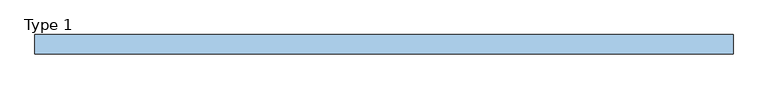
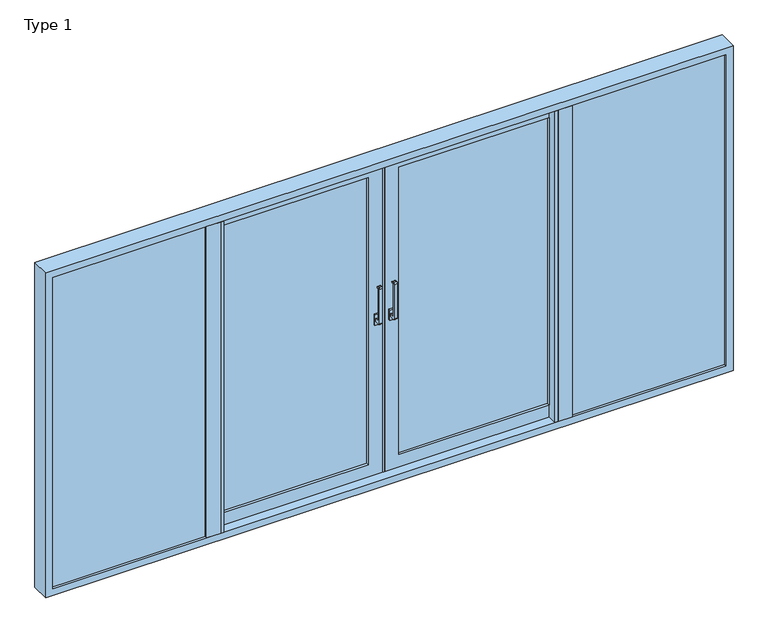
"""IFC4 building model written with IfcOpenShell, lengths in millimetres: window geometry, ETEM_E50_Quadruple_Lift_Sliding_HT : Type 1."""

from ifc_helpers import new_model, si_unit, point, frame, frame_2d, origin, place, context, project, spatial, polyline, circle_curve, trimmed, segment, composite_curve, outline, extrude, faceted_brep, source, transform, mapped, element, save


def type_1_0b5c1950(model_context):
    return source(origin(), model_context, "Body", "SolidModel", [
        extrude(outline(composite_curve([segment(polyline([(36.4, 1090.0), (4.8263152, 1090.0)]), True, "CONTINUOUS"), segment(trimmed(circle_curve(frame_2d((4.8263152, 1098.4263152)), 8.4263152), [point((4.8263152, 1090.0))], [point((-3.6, 1098.4263152))], False, "CARTESIAN"), True, "CONTINUOUS"), segment(polyline([(-3.6, 1098.4263152), (-3.6, 1331.5736848)]), True, "CONTINUOUS"), segment(trimmed(circle_curve(frame_2d((4.8263152, 1331.5736848)), 8.4263152), [point((-3.6, 1331.5736848))], [point((4.8263152, 1340.0))], False, "CARTESIAN"), True, "CONTINUOUS"), segment(polyline([(4.8263152, 1340.0), (16.4, 1340.0)]), True, "CONTINUOUS"), segment(trimmed(circle_curve(frame_2d((16.4, 1335.0)), 5.0), [point((16.4, 1340.0))], [point((16.4, 1330.0))], False, "CARTESIAN"), True, "CONTINUOUS"), segment(polyline([(16.4, 1330.0), (9.9355339, 1330.0)]), True, "CONTINUOUS"), segment(trimmed(circle_curve(frame_2d((9.9355339, 1326.4644661)), 3.5355339), [point((9.9355339, 1330.0))], [point((6.4, 1326.4644661))], True, "CARTESIAN"), True, "CONTINUOUS"), segment(polyline([(6.4, 1326.4644661), (6.4, 1113.5355339)]), True, "CONTINUOUS"), segment(trimmed(circle_curve(frame_2d((9.9355339, 1113.5355339)), 3.5355339), [point((6.4, 1113.5355339))], [point((9.9355339, 1110.0))], True, "CARTESIAN"), True, "CONTINUOUS"), segment(polyline([(9.9355339, 1110.0), (36.4, 1110.0), (36.4, 1090.0)]), True, "CONTINUOUS")], self_intersect=False)), frame((-57.5, 0.0, 0.0), z_axis=(1.0, 0.0, 0.0), x_axis=(0.0, 1.0, 0.0)), (0.0, 0.0, 1.0), 20.0),
        extrude(outline(polyline([(-62.5, 36.4), (-62.5, 49.4), (-32.5, 49.4), (-32.5, 36.4), (-62.5, 36.4)])), frame((0.0, 0.0, 1065.0), z_axis=(0.0, 0.0, 1.0), x_axis=(1.0, 0.0, 0.0)), (0.0, 0.0, 1.0), 70.0),
        extrude(outline(composite_curve([segment(polyline([(36.4, 1090.0), (4.8263152, 1090.0)]), True, "CONTINUOUS"), segment(trimmed(circle_curve(frame_2d((4.8263152, 1098.4263152)), 8.4263152), [point((4.8263152, 1090.0))], [point((-3.6, 1098.4263152))], False, "CARTESIAN"), True, "CONTINUOUS"), segment(polyline([(-3.6, 1098.4263152), (-3.6, 1331.5736848)]), True, "CONTINUOUS"), segment(trimmed(circle_curve(frame_2d((4.8263152, 1331.5736848)), 8.4263152), [point((-3.6, 1331.5736848))], [point((4.8263152, 1340.0))], False, "CARTESIAN"), True, "CONTINUOUS"), segment(polyline([(4.8263152, 1340.0), (16.4, 1340.0)]), True, "CONTINUOUS"), segment(trimmed(circle_curve(frame_2d((16.4, 1335.0)), 5.0), [point((16.4, 1340.0))], [point((16.4, 1330.0))], False, "CARTESIAN"), True, "CONTINUOUS"), segment(polyline([(16.4, 1330.0), (9.9355339, 1330.0)]), True, "CONTINUOUS"), segment(trimmed(circle_curve(frame_2d((9.9355339, 1326.4644661)), 3.5355339), [point((9.9355339, 1330.0))], [point((6.4, 1326.4644661))], True, "CARTESIAN"), True, "CONTINUOUS"), segment(polyline([(6.4, 1326.4644661), (6.4, 1113.5355339)]), True, "CONTINUOUS"), segment(trimmed(circle_curve(frame_2d((9.9355339, 1113.5355339)), 3.5355339), [point((6.4, 1113.5355339))], [point((9.9355339, 1110.0))], True, "CARTESIAN"), True, "CONTINUOUS"), segment(polyline([(9.9355339, 1110.0), (36.4, 1110.0), (36.4, 1090.0)]), True, "CONTINUOUS")], self_intersect=False)), frame((37.5, 0.0, 0.0), z_axis=(1.0, 0.0, 0.0), x_axis=(0.0, 1.0, 0.0)), (0.0, 0.0, 1.0), 20.0),
        extrude(outline(polyline([(62.5, 36.4), (32.5, 36.4), (32.5, 49.4), (62.5, 49.4), (62.5, 36.4)])), frame((0.0, 0.0, 1065.0), z_axis=(0.0, 0.0, 1.0), x_axis=(1.0, 0.0, 0.0)), (0.0, 0.0, 1.0), 70.0),
        faceted_brep([(1151.0, 54.1, 2164.0), (1151.0, 49.4, 2164.0), (1151.0, 49.4, 36.0), (1151.0, 54.1, 36.0), (7.0, 49.4, 2164.0), (7.0, 49.4, 36.0), (1059.5, 49.4, 127.5), (98.5, 49.4, 127.5), (98.5, 49.4, 2072.5), (1059.5, 49.4, 2072.5), (7.0, 54.1, 36.0), (7.0, 54.1, 2164.0), (1121.8, 54.1, 2134.8), (36.2, 54.1, 2134.8), (36.2, 54.1, 65.2), (1121.8, 54.1, 65.2), (1121.8, 94.7, 2134.8), (1121.8, 94.7, 65.2), (36.2, 94.7, 65.2), (1151.0, 94.7, 2164.0), (7.0, 94.7, 2164.0), (7.0, 94.7, 36.0), (1151.0, 94.7, 36.0), (36.2, 94.7, 2134.8), (1151.0, 99.4, 2164.0), (1151.0, 99.4, 36.0), (7.0, 99.4, 36.0), (7.0, 99.4, 2164.0), (1059.5, 99.4, 2072.5), (98.5, 99.4, 2072.5), (98.5, 99.4, 127.5), (1059.5, 99.4, 127.5)], [[[0, 1, 2, 3]], [[1, 4, 5, 2], [6, 7, 8, 9]], [[3, 2, 5, 10]], [[3, 10, 11, 0], [12, 13, 14, 15]], [[16, 12, 15, 17]], [[17, 15, 14, 18]], [[19, 20, 21, 22], [17, 18, 23, 16]], [[24, 19, 22, 25]], [[25, 22, 21, 26]], [[25, 26, 27, 24], [28, 29, 30, 31]], [[9, 28, 31, 6]], [[6, 31, 30, 7]], [[10, 5, 4, 11]], [[18, 14, 13, 23]], [[26, 21, 20, 27]], [[7, 30, 29, 8]], [[11, 4, 1, 0]], [[23, 13, 12, 16]], [[27, 20, 19, 24]], [[8, 29, 28, 9]]]),
        extrude(outline(polyline([(1151.0, 38.4), (1151.0, 99.4), (1171.5, 99.4), (1171.5, 38.4), (1151.0, 38.4)])), frame((0.0, 0.0, 35.8), z_axis=(0.0, 0.0, 1.0), x_axis=(1.0, 0.0, 0.0)), (0.0, 0.0, 1.0), 2128.2),
        extrude(outline(polyline([(1059.5, 45.4), (1080.0, 45.4), (1080.0, -15.6), (1059.5, -15.6), (1059.5, 45.4)])), frame((0.0, 0.0, 46.0), z_axis=(0.0, 0.0, 1.0), x_axis=(1.0, 0.0, 0.0)), (0.0, 0.0, 1.0), 2108.0),
        extrude(outline(polyline([(98.5252518, 91.4), (1059.5, 91.4), (1059.5, 86.4), (98.5252518, 86.4), (98.5252518, 91.4)])), frame((0.0, 0.0, 127.5), z_axis=(0.0, 0.0, 1.0), x_axis=(1.0, 0.0, 0.0)), (0.0, 0.0, 1.0), 1945.0),
        extrude(outline(polyline([(1171.5, 26.4), (2154.0, 26.4), (2154.0, 21.4), (1171.5, 21.4), (1171.5, 26.4)])), frame((0.0, 0.0, 46.0), z_axis=(0.0, 0.0, 1.0), x_axis=(1.0, 0.0, 0.0)), (0.0, 0.0, 1.0), 2108.0),
        extrude(outline(polyline([(1080.0, -15.6), (1080.0, 34.4), (1171.5, 34.4), (1171.5, -15.6), (1080.0, -15.6)])), frame((0.0, 0.0, 46.0), z_axis=(0.0, 0.0, 1.0), x_axis=(1.0, 0.0, 0.0)), (0.0, 0.0, 1.0), 2108.0),
        extrude(outline(polyline([(98.5252518, 70.4001211), (1059.5, 70.4001211), (1059.5, 65.4001211), (98.5252518, 65.4001211), (98.5252518, 70.4001211)])), frame((0.0, 0.0, 127.5), z_axis=(0.0, 0.0, 1.0), x_axis=(1.0, 0.0, 0.0)), (0.0, 0.0, 1.0), 1945.0),
        extrude(outline(polyline([(1171.5, 5.4), (2154.0, 5.4), (2154.0, 0.4), (1171.5, 0.4), (1171.5, 5.4)])), frame((0.0, 0.0, 46.0), z_axis=(0.0, 0.0, 1.0), x_axis=(1.0, 0.0, 0.0)), (0.0, 0.0, 1.0), 2108.0),
        faceted_brep([(-7.0, 54.1, 2164.0), (-7.0, 49.4, 2164.0), (-7.0, 49.4, 36.0), (-7.0, 54.1, 36.0), (-1151.0, 49.4, 2164.0), (-1151.0, 49.4, 36.0), (-98.5, 49.4, 127.5), (-1059.5, 49.4, 127.5), (-1059.5, 49.4, 2072.5), (-98.5, 49.4, 2072.5), (-1151.0, 54.1, 36.0), (-1151.0, 54.1, 2164.0), (-38.1, 54.1, 2132.9), (-1119.9, 54.1, 2132.9), (-1119.9, 54.1, 67.1), (-38.1, 54.1, 67.1), (-38.1, 94.7, 2132.9), (-38.1, 94.7, 67.1), (-1119.9, 94.7, 67.1), (-7.0, 94.7, 2164.0), (-1151.0, 94.7, 2164.0), (-1151.0, 94.7, 36.0), (-7.0, 94.7, 36.0), (-1119.9, 94.7, 2132.9), (-7.0, 99.4, 2164.0), (-7.0, 99.4, 36.0), (-1151.0, 99.4, 36.0), (-1151.0, 99.4, 2164.0), (-98.5, 99.4, 2072.5), (-1059.5, 99.4, 2072.5), (-1059.5, 99.4, 127.5), (-98.5, 99.4, 127.5)], [[[0, 1, 2, 3]], [[1, 4, 5, 2], [6, 7, 8, 9]], [[3, 2, 5, 10]], [[3, 10, 11, 0], [12, 13, 14, 15]], [[16, 12, 15, 17]], [[17, 15, 14, 18]], [[19, 20, 21, 22], [17, 18, 23, 16]], [[24, 19, 22, 25]], [[25, 22, 21, 26]], [[25, 26, 27, 24], [28, 29, 30, 31]], [[9, 28, 31, 6]], [[6, 31, 30, 7]], [[10, 5, 4, 11]], [[18, 14, 13, 23]], [[26, 21, 20, 27]], [[7, 30, 29, 8]], [[11, 4, 1, 0]], [[23, 13, 12, 16]], [[27, 20, 19, 24]], [[8, 29, 28, 9]]]),
        extrude(outline(polyline([(-1059.5, 91.4), (-98.5, 91.4), (-98.5, 86.3998789), (-1059.5, 86.3998789), (-1059.5, 91.4)])), frame((0.0, 0.0, 127.5), z_axis=(0.0, 0.0, 1.0), x_axis=(1.0, 0.0, 0.0)), (0.0, 0.0, 1.0), 1945.0),
        extrude(outline(polyline([(-1059.5, 70.4001211), (-98.5, 70.4001211), (-98.5, 65.4), (-1059.5, 65.4), (-1059.5, 70.4001211)])), frame((0.0, 0.0, 127.5), z_axis=(0.0, 0.0, 1.0), x_axis=(1.0, 0.0, 0.0)), (0.0, 0.0, 1.0), 1945.0),
        extrude(outline(polyline([(-1080.0, -15.6), (-1171.5, -15.6), (-1171.5, 34.4), (-1080.0, 34.4), (-1080.0, -15.6)])), frame((0.0, 0.0, 46.0), z_axis=(0.0, 0.0, 1.0), x_axis=(1.0, 0.0, 0.0)), (0.0, 0.0, 1.0), 2108.0),
        extrude(outline(polyline([(-1059.5, 45.4), (-1059.5, -15.6), (-1080.0, -15.6), (-1080.0, 45.4), (-1059.5, 45.4)])), frame((0.0, 0.0, 46.0), z_axis=(0.0, 0.0, 1.0), x_axis=(1.0, 0.0, 0.0)), (0.0, 0.0, 1.0), 2108.0),
        extrude(outline(polyline([(-1171.5, 38.4), (-1171.5, 99.4), (-1151.0, 99.4), (-1151.0, 38.4), (-1171.5, 38.4)])), frame((0.0, 0.0, 36.0), z_axis=(0.0, 0.0, 1.0), x_axis=(1.0, 0.0, 0.0)), (0.0, 0.0, 1.0), 2128.0),
        extrude(outline(polyline([(-2154.0, 26.4), (-1171.5, 26.4), (-1171.5, 21.4), (-2154.0, 21.4), (-2154.0, 26.4)])), frame((0.0, 0.0, 46.0), z_axis=(0.0, 0.0, 1.0), x_axis=(1.0, 0.0, 0.0)), (0.0, 0.0, 1.0), 2108.0),
        extrude(outline(polyline([(-2154.0, 5.4), (-1171.5, 5.4), (-1171.5, 0.4), (-2154.0, 0.4), (-2154.0, 5.4)])), frame((0.0, 0.0, 46.0), z_axis=(0.0, 0.0, 1.0), x_axis=(1.0, 0.0, 0.0)), (0.0, 0.0, 1.0), 2108.0),
        extrude(outline(polyline([(3.5, 58.4), (3.5, 49.4), (-7.0, 49.4), (-7.0, 99.4), (3.5, 99.4), (3.5, 90.4), (16.0497482, 90.4), (16.0497482, 58.4), (3.5, 58.4)])), frame((0.0, 0.0, 36.0), z_axis=(0.0, 0.0, 1.0), x_axis=(1.0, 0.0, 0.0)), (0.0, 0.0, 1.0), 2128.0),
        faceted_brep([(2200.0, 105.0, 2200.0), (2200.0, -15.6, 2200.0), (2200.0, -15.6, 0.0), (2200.0, 105.0, 0.0), (-2200.0, -15.6, 2200.0), (-2200.0, -15.6, 0.0), (2154.0, -15.6, 2154.0), (2154.0, -15.6, 46.0), (-2154.0, -15.6, 46.0), (-2154.0, -15.6, 2154.0), (-2200.0, 105.0, 0.0), (-2200.0, 105.0, 2200.0), (2155.0, 105.0, 45.0), (2155.0, 105.0, 2155.0), (-2155.0, 105.0, 2155.0), (-2155.0, 105.0, 45.0), (2155.0, 101.4, 2155.0), (2155.0, 101.4, 45.0), (-2155.0, 101.4, 45.0), (2181.7, 101.4, 18.3), (2181.7, 101.4, 2181.7), (-2181.7, 101.4, 2181.7), (-2181.7, 101.4, 18.3), (-2155.0, 101.4, 2155.0), (2181.7, 78.9, 2181.7), (2181.7, 78.9, 18.3), (-2181.7, 78.9, 18.3), (-2181.7, 78.9, 2181.7), (2163.0, 78.9, 37.0), (2163.0, 78.9, 2163.0), (-2163.0, 78.9, 2163.0), (-2163.0, 78.9, 37.0), (2163.0, 90.4, 2163.0), (2163.0, 90.4, 37.0), (-2163.0, 90.4, 37.0), (-2163.0, 90.4, 2163.0), (2155.0, 90.4, 45.0), (2155.0, 90.4, 2155.0), (-2155.0, 90.4, 2155.0), (-2155.0, 90.4, 45.0), (2155.0, 58.4, 2155.0), (2155.0, 58.4, 45.0), (-2155.0, 58.4, 45.0), (2163.0, 58.4, 37.0), (2163.0, 58.4, 2163.0), (-2163.0, 58.4, 2163.0), (-2163.0, 58.4, 37.0), (-2155.0, 58.4, 2155.0), (2163.0, 69.9, 2163.0), (2163.0, 69.9, 37.0), (-2163.0, 69.9, 37.0), (2181.7, 69.9, 18.3), (2181.7, 69.9, 2181.7), (-2181.7, 69.9, 2181.7), (-2181.7, 69.9, 18.3), (-2163.0, 69.9, 2163.0), (2181.7, 34.4, 2181.7), (2181.7, 34.4, 18.3), (-2181.7, 34.4, 18.3), (-2181.7, 34.4, 2181.7), (2154.0, 34.4, 46.0), (2154.0, 34.4, 2154.0), (1080.0, 34.4, 2154.0), (1080.0, 34.4, 2164.2), (-1080.0, 34.4, 2164.2), (-1080.0, 34.4, 2154.0), (-2154.0, 34.4, 2154.0), (-2154.0, 34.4, 46.0), (-1080.0, 34.4, 46.0), (-1080.0, 34.4, 35.8), (1080.0, 34.4, 35.8), (1080.0, 34.4, 46.0), (1080.0, 45.4, 46.0), (-1080.0, 45.4, 46.0), (1080.0, 45.4, 35.8), (-1080.0, 45.4, 35.8), (-1080.0, 45.4, 2164.2), (-1080.0, 45.4, 2154.0), (1080.0, 45.4, 2154.0), (1080.0, 45.4, 2164.2)], [[[0, 1, 2, 3]], [[2, 1, 4, 5], [6, 7, 8, 9]], [[3, 2, 5, 10]], [[0, 3, 10, 11], [12, 13, 14, 15]], [[16, 13, 12, 17]], [[17, 12, 15, 18]], [[19, 20, 21, 22], [16, 17, 18, 23]], [[24, 20, 19, 25]], [[25, 19, 22, 26]], [[24, 25, 26, 27], [28, 29, 30, 31]], [[32, 29, 28, 33]], [[33, 28, 31, 34]], [[32, 33, 34, 35], [36, 37, 38, 39]], [[40, 37, 36, 41]], [[41, 36, 39, 42]], [[43, 44, 45, 46], [40, 41, 42, 47]], [[48, 44, 43, 49]], [[49, 43, 46, 50]], [[51, 52, 53, 54], [48, 49, 50, 55]], [[56, 52, 51, 57]], [[57, 51, 54, 58]], [[56, 57, 58, 59], [60, 61, 62, 63, 64, 65, 66, 67, 68, 69, 70, 71]], [[6, 61, 60, 7]], [[7, 60, 71, 72, 73, 68, 67, 8]], [[10, 5, 4, 11]], [[18, 15, 14, 23]], [[26, 22, 21, 27]], [[34, 31, 30, 35]], [[42, 39, 38, 47]], [[50, 46, 45, 55]], [[58, 54, 53, 59]], [[8, 67, 66, 9]], [[1, 0, 11, 4]], [[13, 16, 23, 14]], [[20, 24, 27, 21]], [[29, 32, 35, 30]], [[37, 40, 47, 38]], [[44, 48, 55, 45]], [[52, 56, 59, 53]], [[70, 74, 72, 71]], [[75, 73, 72, 74]], [[68, 73, 75, 69]], [[69, 75, 74, 70]], [[64, 76, 77, 65]], [[62, 78, 79, 63]], [[76, 64, 63, 79]], [[77, 76, 79, 78]], [[65, 77, 78, 62, 61, 6, 9, 66]]]),
    ])


if __name__ == "__main__":
    model = new_model("IFC4")
    model_context = context("Model", 3, world=origin())
    ifc_project = project(units=[si_unit("LENGTHUNIT", "METRE", prefix="MILLI")], contexts=[model_context])
    site = spatial("IfcSite", under=ifc_project)
    building = spatial("IfcBuilding", under=site)
    placement = place(None, origin())
    type_1_shape = type_1_0b5c1950(model_context)
    element("IfcWindow", 1, ObjectType="ETEM_E50_Quadruple_Lift_Sliding_HT : Type 1", at=placement, inside=building, context=model_context, shape_type="MappedRepresentation", body=[
        mapped(type_1_shape, transform((0.0, 0.0, 0.0), x_axis=(1.0, 0.0, 0.0), y_axis=(0.0, 1.0, 0.0), z_axis=(0.0, 0.0, 1.0))),
    ])
    save(model, "model.ifc")
